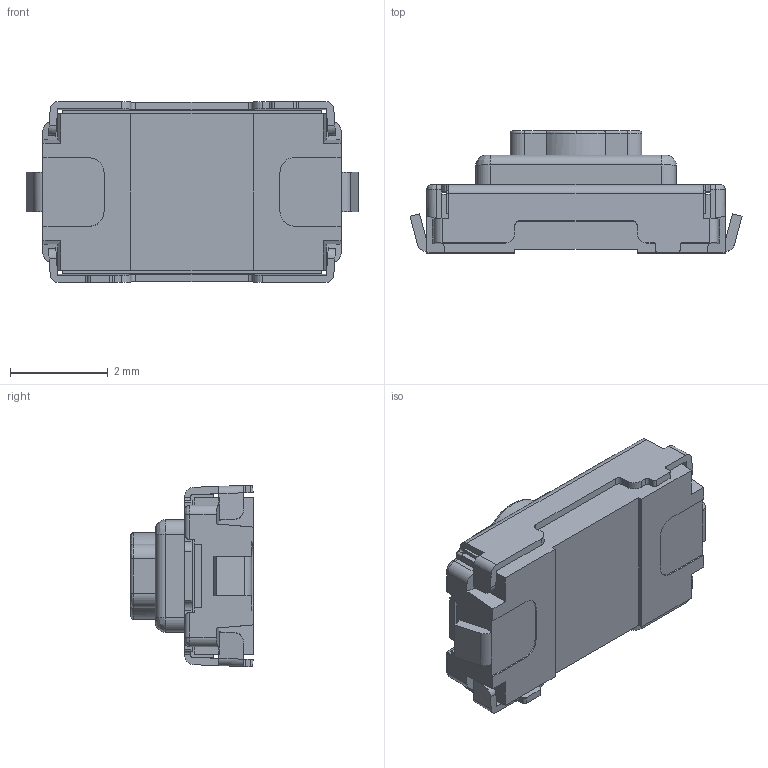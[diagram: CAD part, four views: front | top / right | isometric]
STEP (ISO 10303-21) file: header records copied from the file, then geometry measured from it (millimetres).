
FILE_DESCRIPTION (( 'STEP AP214' ), '1' );
FILE_NAME ('SKQYPD.STEP', '2013-01-24T02:51:34', ( 'Suzuki Kiyoshi' ), ( 'ａｌｐｓ' ), 'SwSTEP 2.0', 'SolidWorks 2012', '' );
FILE_SCHEMA (( 'AUTOMOTIVE_DESIGN' ));
Length unit declared in the file: millimetre
Products named in the file (1): SKQYPD
Bounding box: 6.79 x 2.5 x 3.72 mm (x, y, z)
Volume: 35.1 mm3; surface area: 104.4 mm2
Topology: 1 solids, 1 shells, 274 faces, 752 edges, 481 vertices
Faces by surface type: plane 157, cylinder 100, bspline 17
Entity records: 11985 total; most frequent: CARTESIAN_POINT 2072, ORIENTED_EDGE 1504, DIRECTION 1366, EDGE_CURVE 752, LINE 528, VECTOR 528, VERTEX_POINT 481, AXIS2_PLACEMENT_3D 419
